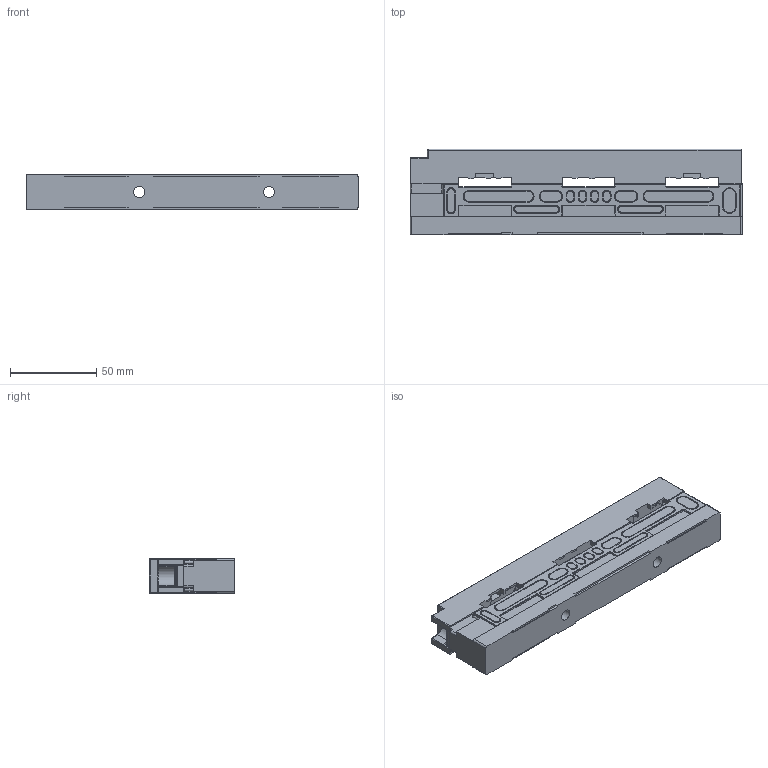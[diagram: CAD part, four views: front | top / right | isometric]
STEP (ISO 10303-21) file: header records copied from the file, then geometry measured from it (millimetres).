
FILE_DESCRIPTION (( 'STEP AP214' ), '1' );
FILE_NAME ('52002.STEP', '2021-08-09T06:26:20', ( '' ), ( '' ), 'SwSTEP 2.0', 'SolidWorks 2017', '' );
FILE_SCHEMA (( 'AUTOMOTIVE_DESIGN' ));
Length unit declared in the file: millimetre
Products named in the file (2): 52002
Bounding box: 192 x 49.5 x 20 mm (x, y, z)
Volume: 155114.9 mm3; surface area: 57699.4 mm2
Topology: 6 solids, 24 shells, 1577 faces, 4104 edges, 2633 vertices
Faces by surface type: plane 926, cylinder 430, bspline 101, torus 76, cone 44
Full cylindrical faces by diameter (mm): 3.6 x3, 4 x4, 5 x4, 5.5 x4, 6.5 x6, 7.002 x4, 9 x4, 9.3 x4, 10.5 x3, 11 x4
Entity records: 68459 total; most frequent: CARTESIAN_POINT 16049, ORIENTED_EDGE 8052, DIRECTION 7289, EDGE_CURVE 4026, LINE 2769, VECTOR 2769, VERTEX_POINT 2620, AXIS2_PLACEMENT_3D 2260
